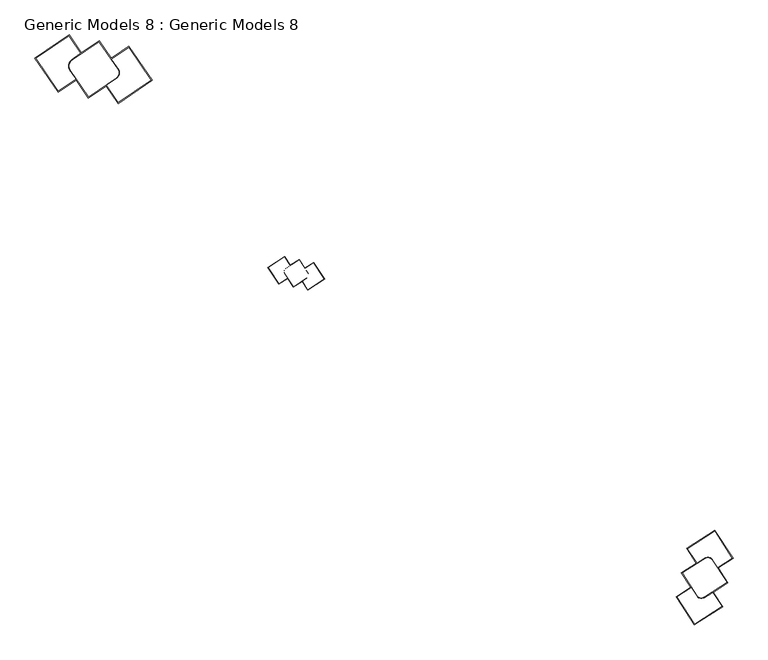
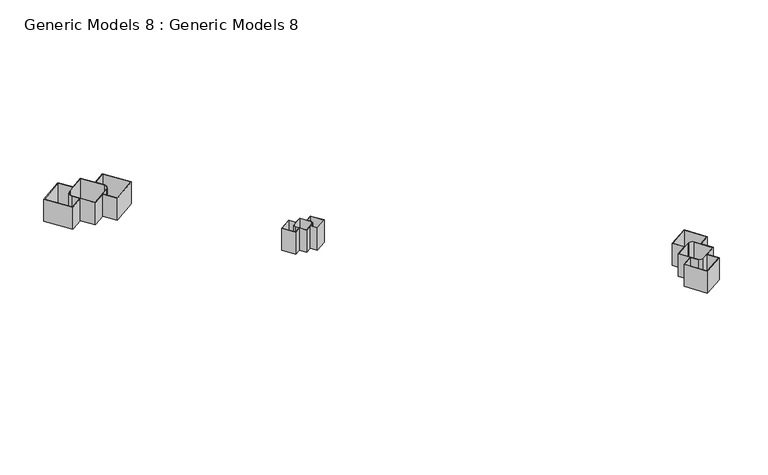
"""IFC4 building model written with IfcOpenShell, lengths in millimetres: proxy geometry, Generic Models 8 : Generic Models 8."""

from ifc_helpers import new_model, si_unit, point, frame, frame_2d, origin, place, context, project, spatial, polyline, circle_curve, trimmed, segment, composite_curve, outline, extrude, source, transform, mapped, element, save


def generic_models_8_generic_models_8_c452664b(model_context):
    return source(origin(), model_context, "Body", "SweptSolid", [
        extrude(outline(polyline([(926993.5855382, 31956.5978154), (926369.6868114, 32871.0028856), (925457.8132637, 32248.8314171), (924822.7335432, 33179.6236941), (923894.5181564, 32546.3021862), (922690.2222066, 34311.3551911), (924455.2752115, 35515.6511407), (925090.3549322, 34584.8588635), (926018.5703192, 35218.1803716), (926642.4690457, 34303.7753015), (927554.3425932, 34925.94677), (928758.638543, 33160.8937651), (926993.5855382, 31956.5978154)]), holes=[composite_curve([segment(polyline([(926672.5764444, 34259.6489765), (927050.9234059, 33705.1320892)]), True, "CONTINUOUS"), segment(trimmed(circle_curve(frame_2d((926688.4385378, 33560.8105817)), 390.1589126), [point((927050.9234059, 33705.1320892))], [point((926908.3354492, 33238.5229378))], False, "CARTESIAN"), True, "CONTINUOUS"), segment(polyline([(926908.3354492, 33238.5229378), (926413.8131366, 32901.1102844), (927007.6044644, 32030.8315393), (928684.4048192, 33174.9126915), (927540.323667, 34851.7130461), (926672.5764444, 34259.6489765)]), True, "CONTINUOUS")], self_intersect=False), composite_curve([segment(polyline([(924573.3406167, 34220.7320268), (924671.9361231, 34299.3716428), (925046.228607, 34554.7514648), (924441.256285, 35441.4174169), (922764.4559305, 34297.3362647), (923908.5370826, 32620.5359101), (924792.6261444, 33223.7500194), (924473.4142255, 33691.596778)]), True, "CONTINUOUS"), segment(trimmed(circle_curve(frame_2d((924787.9450451, 33906.2012069)), 380.7685614), [point((924473.4142255, 33691.596778))], [point((924573.3406167, 34220.7320268))], False, "CARTESIAN"), True, "CONTINUOUS")], self_intersect=False), composite_curve([segment(polyline([(924517.5405506, 33721.7041768), (925471.8321901, 32323.0651409), (926878.2280504, 33282.649263)]), True, "CONTINUOUS"), segment(trimmed(circle_curve(frame_2d((926688.4385378, 33560.8105817)), 336.7399269), [point((926878.2280504, 33282.649263))], [point((927003.3503913, 33680.0762639))], True, "CARTESIAN"), True, "CONTINUOUS"), segment(polyline([(927003.3503913, 33680.0762639), (926004.5513928, 35143.9466477), (924703.6885846, 34256.3677442), (924605.0341808, 34177.6811518)]), True, "CONTINUOUS"), segment(trimmed(circle_curve(frame_2d((924787.9450451, 33906.2012069)), 327.3495758), [point((924605.0341808, 34177.6811518))], [point((924517.5405506, 33721.7041768))], True, "CARTESIAN"), True, "CONTINUOUS")], self_intersect=False)]), frame((0.0, 0.0, 5000.0), z_axis=(0.0, 0.0, 1.0), x_axis=(1.0, 0.0, 0.0)), (0.0, 0.0, 1.0), 1808.1188465),
        extrude(outline(polyline([(956418.4470876, 8927.7274365), (957877.1931906, 9866.9863643), (958816.4521183, 8408.2402612), (958049.3190213, 7914.2978206), (958544.6327335, 7145.0350263), (957791.0055164, 6659.7887655), (958277.5989067, 5904.0693457), (956818.8528037, 4964.8104179), (955879.593876, 6423.5565211), (956633.221093, 6908.8027817), (956146.6277027, 7664.5222012), (956913.7607999, 8158.464642), (956418.4470876, 8927.7274365)]), holes=[composite_curve([segment(polyline([(956478.3972134, 8914.7402572), (956950.2294525, 8181.9461152), (957259.5673028, 8381.1228856), (957349.554326, 8429.9953465)]), True, "CONTINUOUS"), segment(trimmed(circle_curve(frame_2d((957516.9294021, 8170.0481349)), 309.1714232), [point((957349.554326, 8429.9953465))], [point((957776.8766139, 8337.4232106))], False, "CARTESIAN"), True, "CONTINUOUS"), segment(polyline([(957776.8766139, 8337.4232106), (958025.837548, 7950.7664733), (958756.5019926, 8421.2274407), (957864.2060112, 9807.0362385), (956478.3972134, 8914.7402572)]), True, "CONTINUOUS")], self_intersect=False), composite_curve([segment(polyline([(957322.3523691, 6409.6198266), (958484.6826078, 7158.0222056), (957740.4079612, 8313.9417374)]), True, "CONTINUOUS"), segment(trimmed(circle_curve(frame_2d((957516.9294021, 8170.0481349)), 265.7969813), [point((957740.4079612, 8313.9417374))], [point((957409.239197, 8413.0519518))], True, "CARTESIAN"), True, "CONTINUOUS"), segment(polyline([(957409.239197, 8413.0519518), (957281.6891969, 8343.7788259), (956206.5778284, 7651.5350219), (956985.5648183, 6441.7043759)]), True, "CONTINUOUS"), segment(trimmed(circle_curve(frame_2d((957174.3310342, 6639.5090927)), 273.4216346), [point((956985.5648183, 6441.7043759))], [point((957322.3523691, 6409.6198266))], True, "CARTESIAN"), True, "CONTINUOUS")], self_intersect=False), composite_curve([segment(trimmed(circle_curve(frame_2d((957174.3310342, 6639.5090927)), 316.7960764), [point((957345.8338423, 6373.151174))], [point((956951.7843203, 6414.0479781))], False, "CARTESIAN"), True, "CONTINUOUS"), segment(polyline([(956951.7843203, 6414.0479781), (956656.7025661, 6872.3341292), (955939.5440017, 6410.5693416), (956831.8399831, 5024.7605437), (958217.648781, 5917.0565252), (957754.5368638, 6636.3072923), (957345.8338423, 6373.151174)]), True, "CONTINUOUS")], self_intersect=False)]), frame((0.0, 0.0, 5000.0), z_axis=(0.0, 0.0, 1.0), x_axis=(1.0, 0.0, 0.0)), (0.0, 0.0, 1.0), 1808.1188465),
        extrude(outline(polyline([(936812.1029882, 22299.5346883), (936516.1338446, 22747.5055267), (936069.4032096, 22452.3557711), (935768.1299533, 22908.3547701), (935313.3933835, 22607.9155862), (934742.0916231, 23472.6223778), (935606.7984147, 24043.924138), (935908.071671, 23587.925139), (936362.8082409, 23888.3643229), (936658.7773844, 23440.3934846), (937105.5080193, 23735.5432402), (937676.8097797, 22870.8364486), (936812.1029882, 22299.5346883)]), holes=[composite_curve([segment(polyline([(936673.0599284, 23418.7758148), (936852.5426254, 23147.1156907)]), True, "CONTINUOUS"), segment(trimmed(circle_curve(frame_2d((936675.7039177, 23079.7421381)), 189.2382734), [point((936852.5426254, 23147.1156907))], [point((936780.0200475, 22921.852084))], False, "CARTESIAN"), True, "CONTINUOUS"), segment(polyline([(936780.0200475, 22921.852084), (936537.7515144, 22761.7880707), (936819.4381139, 22335.4349021), (937640.9095659, 22878.1715744), (937098.1728936, 23699.6430263), (936673.0599284, 23418.7758148)]), True, "CONTINUOUS")], self_intersect=False), composite_curve([segment(polyline([(935654.7020856, 23415.0679098), (935703.0865601, 23452.4938508), (935886.4540012, 23573.6425949), (935599.4632888, 24008.0239243), (934777.991837, 23465.287252), (935320.7285092, 22643.8158), (935753.8474093, 22929.97244), (935602.4175791, 23159.1725085)]), True, "CONTINUOUS"), segment(trimmed(circle_curve(frame_2d((935756.5075328, 23260.9779559)), 184.6836835), [point((935602.4175791, 23159.1725085))], [point((935654.7020856, 23415.0679098))], False, "CARTESIAN"), True, "CONTINUOUS")], self_intersect=False), composite_curve([segment(polyline([(936355.4731151, 23852.4641091), (935718.1750272, 23431.4086451), (935649.593586, 23378.3601207)]), True, "CONTINUOUS"), segment(trimmed(circle_curve(frame_2d((935756.5075328, 23260.9779559)), 158.7739419), [point((935649.593586, 23378.3601207))], [point((935624.0352488, 23173.4550525))], True, "CARTESIAN"), True, "CONTINUOUS"), segment(polyline([(935624.0352488, 23173.4550525), (936076.7383354, 22488.2559849), (936765.7375035, 22943.4697538)]), True, "CONTINUOUS"), segment(trimmed(circle_curve(frame_2d((936675.7039177, 23079.7421381)), 163.3285318), [point((936765.7375035, 22943.4697538))], [point((936829.2898926, 23135.3079335))], True, "CARTESIAN"), True, "CONTINUOUS"), segment(polyline([(936829.2898926, 23135.3079335), (936355.4731151, 23852.4641091)]), True, "CONTINUOUS")], self_intersect=False)]), frame((0.0, 0.0, 5000.0), z_axis=(0.0, 0.0, 1.0), x_axis=(1.0, 0.0, 0.0)), (0.0, 0.0, 1.0), 1808.1188465),
    ])


if __name__ == "__main__":
    model = new_model("IFC4")
    model_context = context("Model", 3, world=origin())
    ifc_project = project(units=[si_unit("LENGTHUNIT", "METRE", prefix="MILLI")], contexts=[model_context])
    site = spatial("IfcSite", under=ifc_project)
    building = spatial("IfcBuilding", under=site)
    placement = place(None, origin())
    generic_models_8_generic_models_8_shape = generic_models_8_generic_models_8_c452664b(model_context)
    element("IfcBuildingElementProxy", 1, Name="Generic Models 8 : Generic Models 8", ObjectType="Generic Models 8 : Generic Models 8", at=placement, inside=building, context=model_context, shape_type="MappedRepresentation", body=[
        mapped(generic_models_8_generic_models_8_shape, transform((0.0, 0.0, 0.0), x_axis=(1.0, 0.0, 0.0), y_axis=(0.0, 1.0, 0.0), z_axis=(0.0, 0.0, 1.0))),
    ])
    save(model, "model.ifc")
